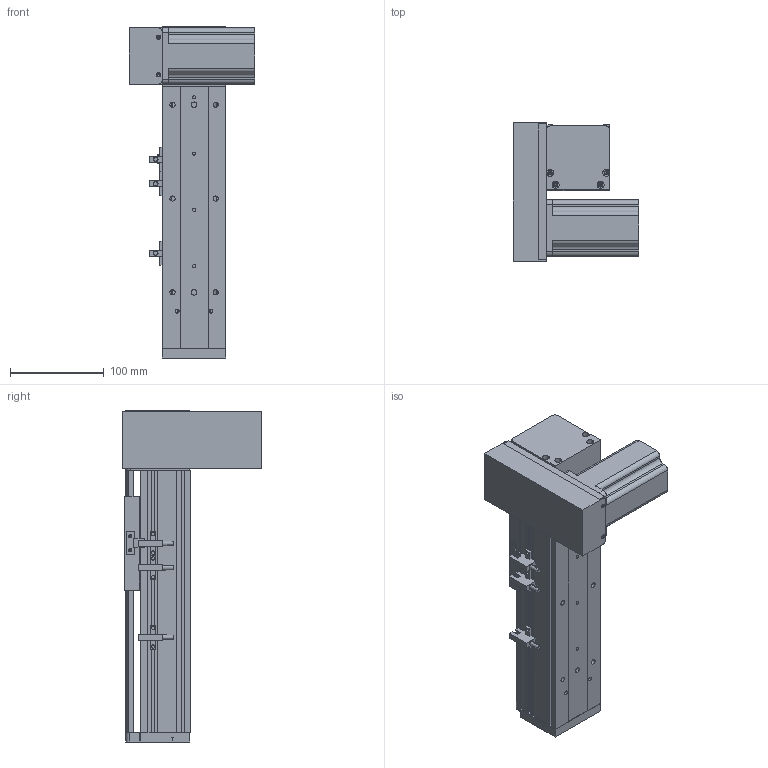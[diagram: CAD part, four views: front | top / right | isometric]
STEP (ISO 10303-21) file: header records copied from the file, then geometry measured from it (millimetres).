
FILE_DESCRIPTION (( 'STEP AP203' ), '1' );
FILE_NAME ('ML68-S100-DR.STEP', '2016-08-05T00:45:34', ( '' ), ( '' ), 'SwSTEP 2.0', 'SolidWorks 2014', '' );
FILE_SCHEMA (( 'CONFIG_CONTROL_DESIGN' ));
Length unit declared in the file: millimetre
Products named in the file (11): 葩璃 ML68菁釱^ML68-S100-DR; ML68雄赽釱; 60換覜結え; ML68-BL傷啣; ML68-S100-DR; QS68左右折电机板罩子; ML68傷啣; 換覜ん; ML68奻裔^ML68-S100-DR; 三协电机MH201N2_預設; QS68酘衵殏萇儂啣
Assembly tree (12 placements, depth 2):
  ML68-S100-DR
    葩璃 ML68菁釱^ML68-S100-DR
    ML68奻裔^ML68-S100-DR
    ML68傷啣
    ML68-BL傷啣
    60換覜結え
    換覜ん  x3
    三协电机MH201N2_預設
    ML68雄赽釱
    QS68酘衵殏萇儂啣
    QS68左右折电机板罩子
Bounding box: 133.5 x 148 x 354 mm (x, y, z)
Volume: 1087678.8 mm3; surface area: 342027.1 mm2
Topology: 12 solids, 12 shells, 803 faces, 2200 edges, 1395 vertices
Faces by surface type: cylinder 360, plane 351, cone 92
Entity records: 25023 total; most frequent: CARTESIAN_POINT 4565, DIRECTION 4140, ORIENTED_EDGE 3908, EDGE_CURVE 1954, AXIS2_PLACEMENT_3D 1486, VERTEX_POINT 1283, VECTOR 1168, LINE 1168
